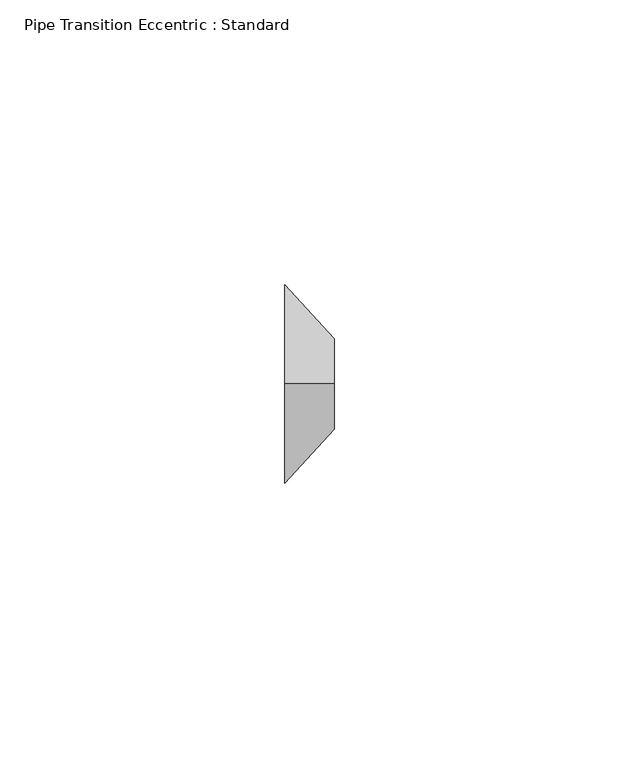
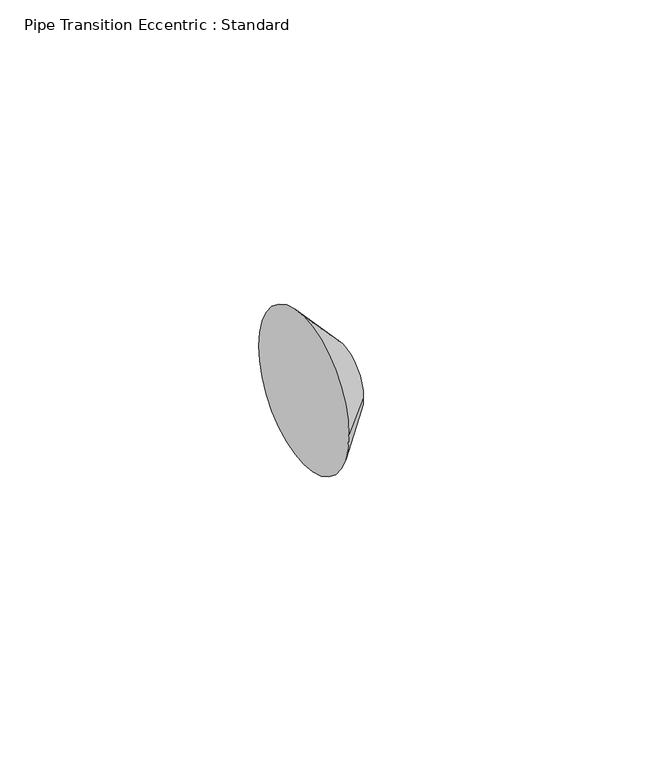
"""IFC4 building model written with IfcOpenShell, lengths in millimetres: pipe fitting geometry, Pipe Transition Eccentric : Standard."""

from ifc_helpers import new_model, si_unit, frame, origin, place, context, project, spatial, polyline, circle_curve, source, transform, mapped, element, save
from ifc_brep_helpers import plane_surface, revolved_surface, advanced_brep


def pipe_transition_eccentric_standard_8de4c794(model_context):
    return source(origin(), model_context, "Body", "AdvancedBrep", [
        advanced_brep(
        [(8.73125, 0.0, 7.9375), (8.73125, -7.9375, 0.0), (8.73125, 0.0, -7.9375), (8.73125, 7.9375, 0.0), (0.0, 0.0, 17.4625), (0.0, 17.4625, 0.0), (0.0, 0.0, -17.4625), (0.0, -17.4625, 0.0)],
        [
            (0, 1, circle_curve(frame((8.73125, 0.0, 0.0), z_axis=(1.0, 0.0, 0.0), x_axis=(0.0, 0.0, 1.0)), 7.9375)),
            (1, 2, circle_curve(frame((8.73125, 0.0, 0.0), z_axis=(1.0, 0.0, 0.0), x_axis=(0.0, -1.0, 0.0)), 7.9375)),
            (2, 3, circle_curve(frame((8.73125, 0.0, 0.0), z_axis=(1.0, 0.0, 0.0), x_axis=(0.0, 0.0, -1.0)), 7.9375)),
            (3, 0, circle_curve(frame((8.73125, 0.0, 0.0), z_axis=(1.0, 0.0, 0.0), x_axis=(0.0, 1.0, 0.0)), 7.9375)),
            (4, 5, circle_curve(frame((0.0, 0.0, 0.0), z_axis=(-1.0, 0.0, 0.0), x_axis=(0.0, 1.0, 0.0)), 17.4625)),
            (5, 6, circle_curve(frame((0.0, 0.0, 0.0), z_axis=(-1.0, 0.0, 0.0), x_axis=(0.0, 0.0, -1.0)), 17.4625)),
            (6, 7, circle_curve(frame((0.0, 0.0, 0.0), z_axis=(-1.0, 0.0, 0.0), x_axis=(0.0, -1.0, 0.0)), 17.4625)),
            (7, 4, circle_curve(frame((0.0, 0.0, 0.0), z_axis=(-1.0, 0.0, 0.0), x_axis=(0.0, 0.0, 1.0)), 17.4625)),
            (7, 1),
            (0, 4),
            (6, 2),
            (5, 3),
        ],
        [
            plane_surface(frame((8.73125, 0.0, 0.0), z_axis=(1.0, 0.0, 0.0), x_axis=(0.0, -1.0, 0.0))),
            plane_surface(frame((0.0, 0.0, 0.0), z_axis=(-1.0, 0.0, 0.0), x_axis=(0.0, -1.0, 0.0))),
            revolved_surface(polyline([(8.73125, 0.0, 7.937500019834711), (0.0, 0.0, 17.4625)]), (16.0072917, 0.0, 0.0), (-1.0, 0.0, 0.0)),
            revolved_surface(polyline([(8.73125, -7.937500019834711, 0.0), (0.0, -17.4625, 0.0)]), (16.0072917, 0.0, 0.0), (-1.0, 0.0, 0.0)),
            revolved_surface(polyline([(8.73125, 0.0, -7.937500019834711), (0.0, 0.0, -17.4625)]), (16.0072917, 0.0, 0.0), (-1.0, 0.0, 0.0)),
            revolved_surface(polyline([(8.73125, 7.937500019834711, 0.0), (0.0, 17.4625, 0.0)]), (16.0072917, 0.0, 0.0), (-1.0, 0.0, 0.0)),
        ],
        [
            (0, [[1, 2, 3, 4]]),
            (1, [[5, 6, 7, 8]]),
            (2, [[-8, 9, -1, 10]]),
            (3, [[-7, 11, -2, -9]]),
            (4, [[-6, 12, -3, -11]]),
            (5, [[-5, -10, -4, -12]]),
        ],
    ),
        advanced_brep(
        [(8.73125, 0.0, 7.9375), (8.73125, -7.9375, 0.0), (8.73125, 0.0, -7.9375), (8.73125, 7.9375, 0.0), (0.0, 0.0, 17.4625), (0.0, 17.4625, 0.0), (0.0, 0.0, -17.4625), (0.0, -17.4625, 0.0)],
        [
            (0, 1, circle_curve(frame((8.73125, 0.0, 0.0), z_axis=(1.0, 0.0, 0.0), x_axis=(0.0, 0.0, 1.0)), 7.9375)),
            (1, 2, circle_curve(frame((8.73125, 0.0, 0.0), z_axis=(1.0, 0.0, 0.0), x_axis=(0.0, -1.0, 0.0)), 7.9375)),
            (2, 3, circle_curve(frame((8.73125, 0.0, 0.0), z_axis=(1.0, 0.0, -1.5326594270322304e-12), x_axis=(-1.5326006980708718e-12, 0.0, -1.0)), 7.9375)),
            (3, 0, circle_curve(frame((8.73125, 0.0, 0.0), z_axis=(1.0, 0.0, 0.0), x_axis=(0.0, 1.0, 0.0)), 7.9375)),
            (4, 5, circle_curve(frame((0.0, 0.0, 0.0), z_axis=(-1.0, 0.0, 0.0), x_axis=(0.0, 1.0, 0.0)), 17.4625)),
            (5, 6, circle_curve(frame((0.0, 0.0, 0.0), z_axis=(-1.0, 0.0, 1.5326594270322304e-12), x_axis=(-1.5326006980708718e-12, 0.0, -1.0)), 17.4625)),
            (6, 7, circle_curve(frame((0.0, 0.0, 0.0), z_axis=(-1.0, 0.0, 0.0), x_axis=(0.0, -1.0, 0.0)), 17.4625)),
            (7, 4, circle_curve(frame((0.0, 0.0, 0.0), z_axis=(-1.0, 0.0, 0.0), x_axis=(0.0, 0.0, 1.0)), 17.4625)),
            (7, 1),
            (0, 4),
            (6, 2),
            (5, 3),
        ],
        [
            plane_surface(frame((8.73125, 0.0, 0.0), z_axis=(1.0, 0.0, 0.0), x_axis=(0.0, -1.0, 0.0))),
            plane_surface(frame((0.0, 0.0, 0.0), z_axis=(-1.0, 0.0, 0.0), x_axis=(0.0, -1.0, 0.0))),
            revolved_surface(polyline([(8.73125, 0.0, 7.937500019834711), (0.0, 0.0, 17.4625)]), (16.0072917, 0.0, 0.0), (-1.0, 0.0, 0.0)),
            revolved_surface(polyline([(8.73125, -7.937500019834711, 0.0), (0.0, -17.4625, 0.0)]), (16.0072917, 0.0, 0.0), (-1.0, 0.0, 0.0)),
            revolved_surface(polyline([(8.73125, 0.0, -7.937500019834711), (-2.6762592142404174e-11, 0.0, -17.462500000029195)]), (16.0072917, 0.0, 0.0), (-1.0, 0.0, 1.5326594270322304e-12)),
            revolved_surface(polyline([(8.73125, 7.937500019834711, 0.0), (0.0, 17.4625, 0.0)]), (16.0072917, 0.0, 0.0), (-1.0, 0.0, 0.0)),
        ],
        [
            (0, [[1, 2, 3, 4]]),
            (1, [[5, 6, 7, 8]]),
            (2, [[-8, 9, -1, 10]]),
            (3, [[-7, 11, -2, -9]]),
            (4, [[-6, 12, -3, -11]]),
            (5, [[-5, -10, -4, -12]]),
        ],
    ),
    ])


if __name__ == "__main__":
    model = new_model("IFC4")
    model_context = context("Model", 3, world=origin())
    ifc_project = project(units=[si_unit("LENGTHUNIT", "METRE", prefix="MILLI")], contexts=[model_context])
    site = spatial("IfcSite", under=ifc_project)
    building = spatial("IfcBuilding", under=site)
    placement = place(None, origin())
    pipe_transition_eccentric_standard_shape = pipe_transition_eccentric_standard_8de4c794(model_context)
    element("IfcPipeFitting", 1, ObjectType="Pipe Transition Eccentric : Standard", at=placement, inside=building, context=model_context, shape_type="MappedRepresentation", body=[
        mapped(pipe_transition_eccentric_standard_shape, transform((0.0, 0.0, 0.0), x_axis=(1.0, 0.0, 0.0), y_axis=(0.0, 1.0, 0.0), z_axis=(0.0, 0.0, 1.0))),
    ])
    save(model, "model.ifc")
